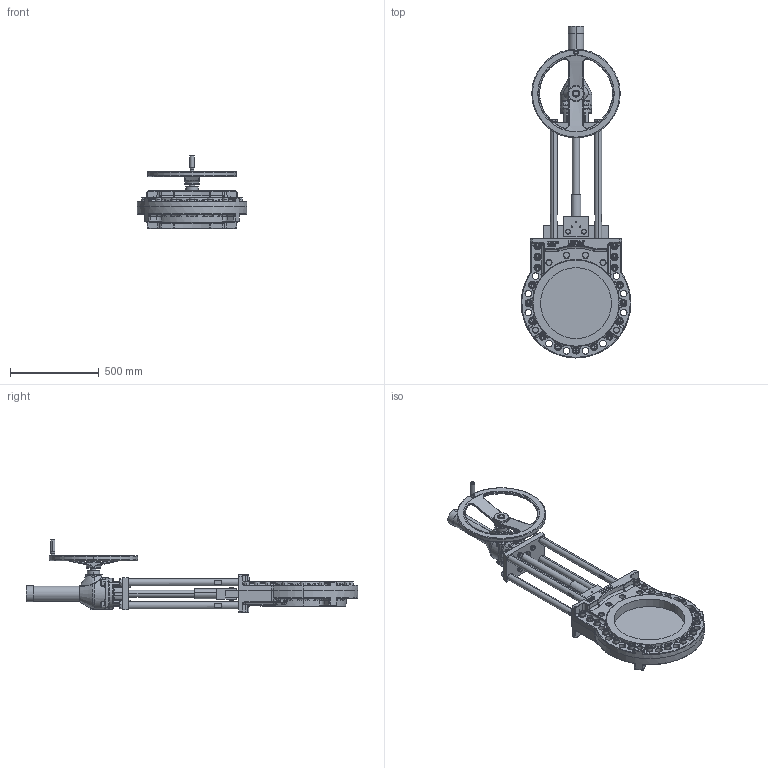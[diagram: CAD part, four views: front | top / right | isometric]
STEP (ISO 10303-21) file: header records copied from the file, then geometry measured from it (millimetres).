
FILE_DESCRIPTION (( 'STEP AP214' ), '1' );
FILE_NAME ('MHA DN 400 GK14.2.STEP', '2015-04-28T08:53:03', ( 'admin' ), ( 'Hewlett-Packard Company' ), 'SwSTEP 2.0', 'SolidWorks 2013', '' );
FILE_SCHEMA (( 'AUTOMOTIVE_DESIGN' ));
Length unit declared in the file: millimetre
Products named in the file (1): MHA DN 400 GK14.2
Bounding box: 620 x 1875 x 416.75 mm (x, y, z)
Volume: 43831026.3 mm3; surface area: 3012682.4 mm2
Topology: 54 solids, 70 shells, 3153 faces, 7532 edges, 4463 vertices
Faces by surface type: plane 1006, cylinder 826, bspline 569, cone 389, torus 353, sphere 10
Entity records: 150618 total; most frequent: CARTESIAN_POINT 45814, ORIENTED_EDGE 14576, DIRECTION 14421, EDGE_CURVE 7288, AXIS2_PLACEMENT_3D 5765, VERTEX_POINT 4463, EDGE_LOOP 3459, UNCERTAINTY_MEASURE_WITH_UNIT 3207
